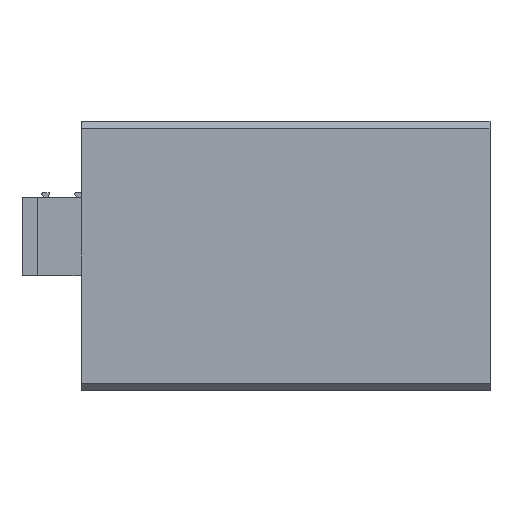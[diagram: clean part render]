
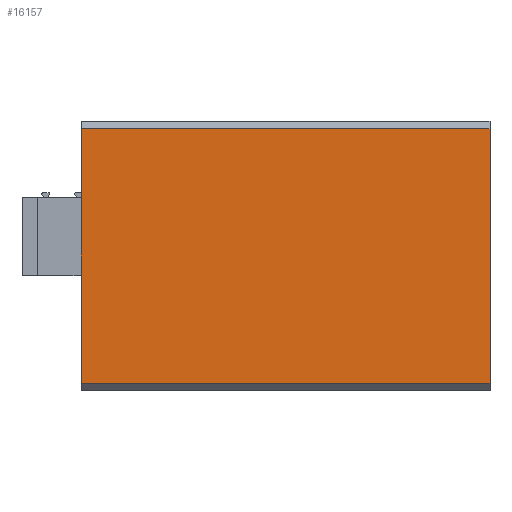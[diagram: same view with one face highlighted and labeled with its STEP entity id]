
A CAD part, front view. The second image highlights one B-rep face of the part: STEP entity #16157.
In plain terms, the highlighted planar face has unit normal (0, -1, 0).
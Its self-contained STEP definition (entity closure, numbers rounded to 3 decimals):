
#41 = CARTESIAN_POINT ( 'NONE',  ( 53., -17.5, 17.5 ) ) ;
#468 = EDGE_CURVE ( 'NONE', #15800, #1935, #13037, .T. ) ;
#1804 = DIRECTION ( 'NONE',  ( 0., 0., 1. ) ) ;
#1935 = VERTEX_POINT ( 'NONE', #10978 ) ;
#2418 = LINE ( 'NONE', #6002, #20436 ) ;
#3483 = PLANE ( 'NONE',  #4962 ) ;
#4000 = EDGE_CURVE ( 'NONE', #4797, #16901, #2418, .T. ) ;
#4681 = ORIENTED_EDGE ( 'NONE', *, *, #16431, .T. ) ;
#4797 = VERTEX_POINT ( 'NONE', #20966 ) ;
#4962 = AXIS2_PLACEMENT_3D ( 'NONE', #41, #12262, #1804 ) ;
#5267 = LINE ( 'NONE', #14851, #9339 ) ;
#5590 = FACE_OUTER_BOUND ( 'NONE', #11775, .T. ) ;
#6002 = CARTESIAN_POINT ( 'NONE',  ( 0., -17.5, 17.5 ) ) ;
#7058 = EDGE_CURVE ( 'NONE', #16901, #1935, #9252, .T. ) ;
#8711 = VECTOR ( 'NONE', #17791, 1000. ) ;
#9252 = LINE ( 'NONE', #16031, #8711 ) ;
#9339 = VECTOR ( 'NONE', #9701, 1000. ) ;
#9400 = CARTESIAN_POINT ( 'NONE',  ( 53., -17.5, 17.5 ) ) ;
#9480 = DIRECTION ( 'NONE',  ( 0., 0., -1. ) ) ;
#9701 = DIRECTION ( 'NONE',  ( -1., 0., 0. ) ) ;
#10978 = CARTESIAN_POINT ( 'NONE',  ( 53., -17.5, -16.5 ) ) ;
#11013 = CARTESIAN_POINT ( 'NONE',  ( 0., -17.5, -16.5 ) ) ;
#11102 = DIRECTION ( 'NONE',  ( 0., 0., -1. ) ) ;
#11775 = EDGE_LOOP ( 'NONE', ( #12157, #16423, #12950, #4681 ) ) ;
#12157 = ORIENTED_EDGE ( 'NONE', *, *, #4000, .T. ) ;
#12262 = DIRECTION ( 'NONE',  ( 0., 1., 0. ) ) ;
#12950 = ORIENTED_EDGE ( 'NONE', *, *, #468, .F. ) ;
#13037 = LINE ( 'NONE', #9400, #17710 ) ;
#14355 = CARTESIAN_POINT ( 'NONE',  ( 53., -17.5, 16.5 ) ) ;
#14851 = CARTESIAN_POINT ( 'NONE',  ( 53., -17.5, 16.5 ) ) ;
#15800 = VERTEX_POINT ( 'NONE', #14355 ) ;
#16031 = CARTESIAN_POINT ( 'NONE',  ( 53., -17.5, -16.5 ) ) ;
#16157 = ADVANCED_FACE ( 'NONE', ( #5590 ), #3483, .F. ) ;
#16423 = ORIENTED_EDGE ( 'NONE', *, *, #7058, .T. ) ;
#16431 = EDGE_CURVE ( 'NONE', #15800, #4797, #5267, .T. ) ;
#16901 = VERTEX_POINT ( 'NONE', #11013 ) ;
#17710 = VECTOR ( 'NONE', #11102, 1000. ) ;
#17791 = DIRECTION ( 'NONE',  ( 1., 0., 0. ) ) ;
#20436 = VECTOR ( 'NONE', #9480, 1000. ) ;
#20966 = CARTESIAN_POINT ( 'NONE',  ( 0., -17.5, 16.5 ) ) ;
